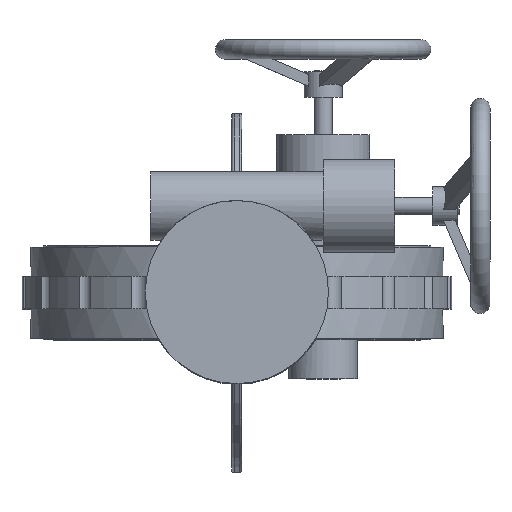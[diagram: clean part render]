
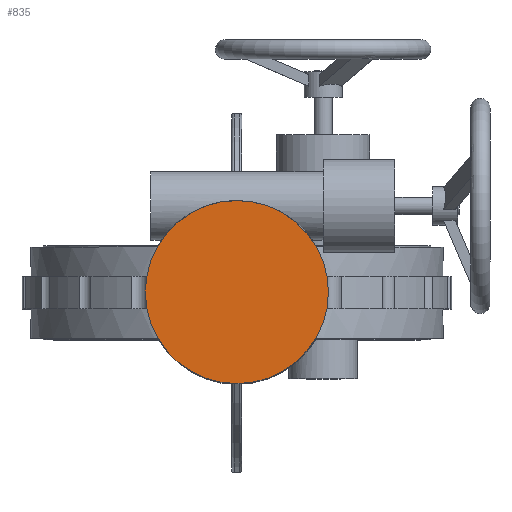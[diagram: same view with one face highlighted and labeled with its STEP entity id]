
A CAD part, top view. The second image highlights one B-rep face of the part: STEP entity #835.
In plain terms, the highlighted planar face has unit normal (0, 0, 1) as drawn and (0, 0, -1) by its records, which use the part's own axes.
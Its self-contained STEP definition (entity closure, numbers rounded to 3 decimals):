
#835 = ADVANCED_FACE( '', ( #1738 ), #1739, .T. );
#1738 = FACE_OUTER_BOUND( '', #4100, .T. );
#1739 = PLANE( '', #4101 );
#4100 = EDGE_LOOP( '', ( #7003 ) );
#4101 = AXIS2_PLACEMENT_3D( '', #7004, #7005, #7006 );
#7003 = ORIENTED_EDGE( '', *, *, #7901, .T. );
#7004 = CARTESIAN_POINT( '', ( 0., 0., 0. ) );
#7005 = DIRECTION( '', ( 0., 0., -1. ) );
#7006 = DIRECTION( '', ( -1., 0., 0. ) );
#7901 = EDGE_CURVE( '', #9323, #9323, #9324, .T. );
#9323 = VERTEX_POINT( '', #14556 );
#9324 = CIRCLE( '', #14557, 127.5 );
#14556 = CARTESIAN_POINT( '', ( 127.5, 0., 0. ) );
#14557 = AXIS2_PLACEMENT_3D( '', #17327, #17328, #17329 );
#17327 = CARTESIAN_POINT( '', ( 0., 0., 0. ) );
#17328 = DIRECTION( '', ( 0., 0., -1. ) );
#17329 = DIRECTION( '', ( 1., 0., 0. ) );
